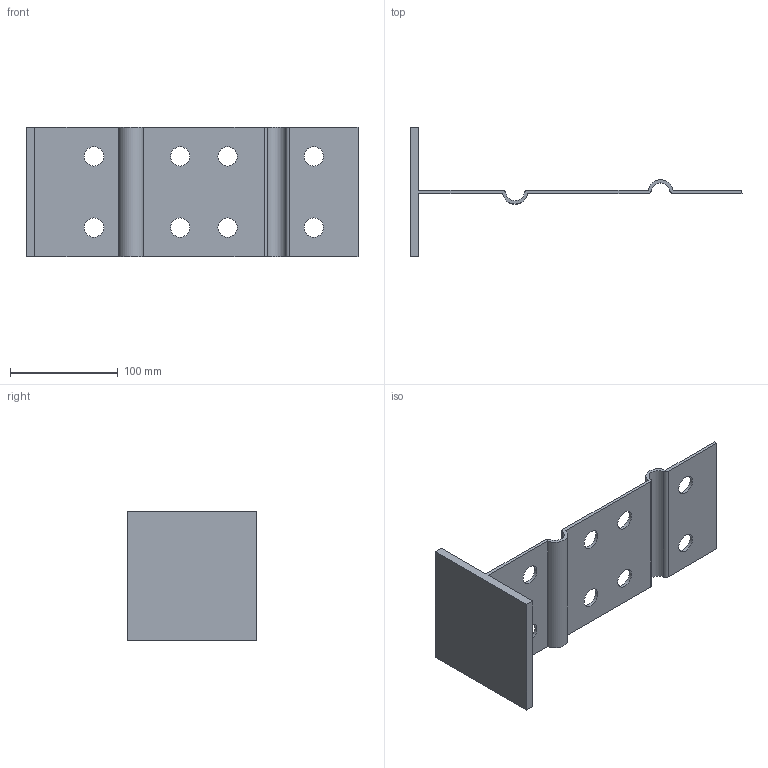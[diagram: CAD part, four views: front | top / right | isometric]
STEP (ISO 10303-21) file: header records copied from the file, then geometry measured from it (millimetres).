
FILE_DESCRIPTION(/* description */ (''),/* implementation_level */ '2;1');
FILE_NAME(/* name */ 'CTB300.stp',/* time_stamp */ '2024-11-04T10:16:21+01:00',/* author */ ('woriedl'),/* organization */ (''),/* preprocessor_version */ 'ST-DEVELOPER v20',/* originating_system */ 'AutoCAD Mechanical',/* authorisation */ '');
FILE_SCHEMA (('AUTOMOTIVE_DESIGN { 1 0 10303 214 3 1 1 }'));
Length unit declared in the file: millimetre
Products named in the file (1): Product
Bounding box: 308 x 120 x 120 mm (x, y, z)
Volume: 224103.4 mm3; surface area: 108516.3 mm2
Topology: 1 solids, 1 shells, 30 faces, 84 edges, 56 vertices
Faces by surface type: cylinder 16, plane 14
Full cylindrical faces by diameter (mm): 18 x8
Entity records: 1035 total; most frequent: DIRECTION 178, CARTESIAN_POINT 171, ORIENTED_EDGE 168, EDGE_CURVE 84, AXIS2_PLACEMENT_3D 63, VERTEX_POINT 56, LINE 52, VECTOR 52
